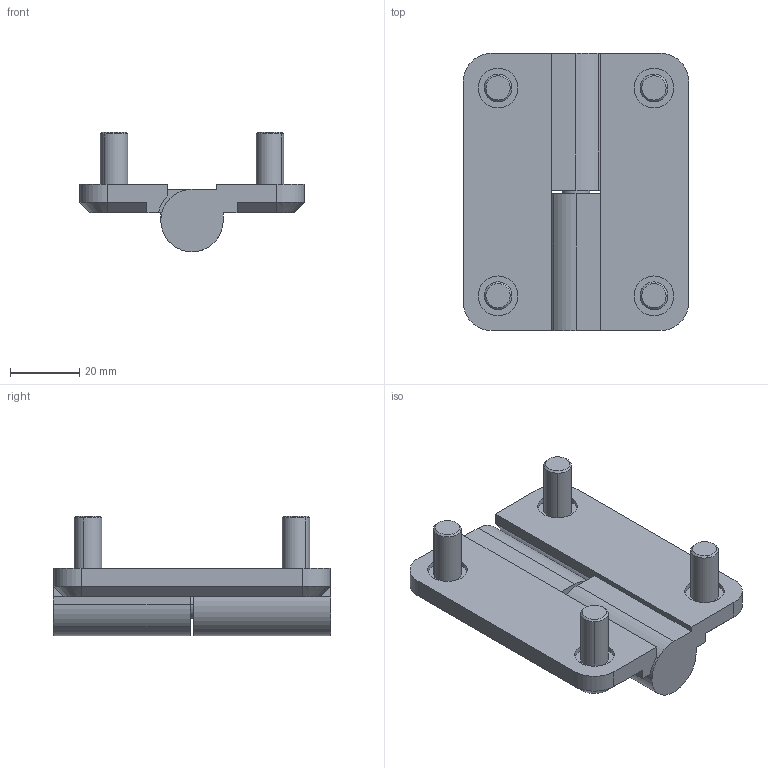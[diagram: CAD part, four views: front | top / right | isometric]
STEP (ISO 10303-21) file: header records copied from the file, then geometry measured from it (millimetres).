
FILE_DESCRIPTION (( 'STEP AP214' ), '1' );
FILE_NAME ('3.ZN67.001.STEP', '2010-02-22T18:33:31', ( '£ukaszC' ), ( '' ), 'SwSTEP 2.0', 'SolidWorks 2008', '' );
FILE_SCHEMA (( 'AUTOMOTIVE_DESIGN' ));
Length unit declared in the file: millimetre
Products named in the file (4): 3.ZN67.001; 3.ZN67.001.05_Domyœlna; 3.ZN67.001.03_Domyœlna; 3.ZN67.001.04_Domyœlna
Assembly tree (7 placements, depth 2):
  3.ZN67.001
    3.ZN67.001.05_Domyœlna  x4
    3.ZN67.001.04_Domyœlna
    3.ZN67.001.03_Domyœlna  x2
Bounding box: 65 x 80 x 34.5 mm (x, y, z)
Volume: 54094.7 mm3; surface area: 21421.5 mm2
Topology: 7 solids, 7 shells, 115 faces, 266 edges, 173 vertices
Faces by surface type: plane 47, cylinder 44, cone 24
Entity records: 1664 total; most frequent: DIRECTION 303, CARTESIAN_POINT 263, ORIENTED_EDGE 242, EDGE_CURVE 121, AXIS2_PLACEMENT_3D 119, VERTEX_POINT 79, LINE 65, VECTOR 65
